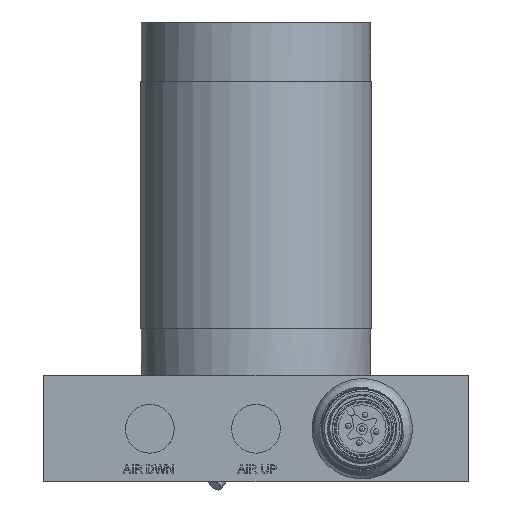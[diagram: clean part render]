
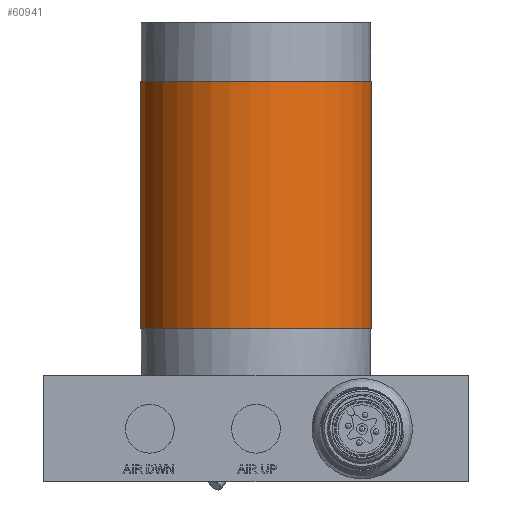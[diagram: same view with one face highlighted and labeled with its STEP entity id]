
A CAD part, front view. The second image highlights one B-rep face of the part: STEP entity #60941.
In plain terms, the highlighted cylindrical face has radius 20.765 mm (diameter 41.529 mm), a full revolution.
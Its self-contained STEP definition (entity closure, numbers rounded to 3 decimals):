
#3591=FACE_OUTER_BOUND('',#7556,.T.);
#7556=EDGE_LOOP('',(#38175,#38176,#38177,#38178));
#14872=LINE('',#86011,#16852);
#16852=VECTOR('',#71112,20.765);
#18781=CIRCLE('',#65091,20.765);
#18784=CIRCLE('',#65095,20.765);
#23177=VERTEX_POINT('',#85997);
#23180=VERTEX_POINT('',#86004);
#28790=EDGE_CURVE('',#23177,#23177,#18781,.T.);
#28793=EDGE_CURVE('',#23180,#23180,#18784,.T.);
#28796=EDGE_CURVE('',#23180,#23177,#14872,.T.);
#38175=ORIENTED_EDGE('',*,*,#28793,.T.);
#38176=ORIENTED_EDGE('',*,*,#28796,.T.);
#38177=ORIENTED_EDGE('',*,*,#28790,.F.);
#38178=ORIENTED_EDGE('',*,*,#28796,.F.);
#56306=CYLINDRICAL_SURFACE('',#65098,20.765);
#60941=ADVANCED_FACE('',(#3591),#56306,.T.);
#65091=AXIS2_PLACEMENT_3D('',#85998,#71096,#71097);
#65095=AXIS2_PLACEMENT_3D('',#86005,#71104,#71105);
#65098=AXIS2_PLACEMENT_3D('',#86010,#71110,#71111);
#71096=DIRECTION('center_axis',(0.,0.,-1.));
#71097=DIRECTION('ref_axis',(-0.054,-0.999,0.));
#71104=DIRECTION('center_axis',(0.,0.,-1.));
#71105=DIRECTION('ref_axis',(-0.054,-0.999,0.));
#71110=DIRECTION('center_axis',(0.,0.,1.));
#71111=DIRECTION('ref_axis',(-0.054,-0.999,0.));
#71112=DIRECTION('',(0.,0.,-1.));
#85997=CARTESIAN_POINT('',(1.131,20.734,27.456));
#85998=CARTESIAN_POINT('Origin',(0.,0.,
27.456));
#86004=CARTESIAN_POINT('',(1.131,20.734,71.906));
#86005=CARTESIAN_POINT('Origin',(0.,0.,
71.906));
#86010=CARTESIAN_POINT('Origin',(0.,0.,
27.456));
#86011=CARTESIAN_POINT('',(1.131,20.734,27.456));
